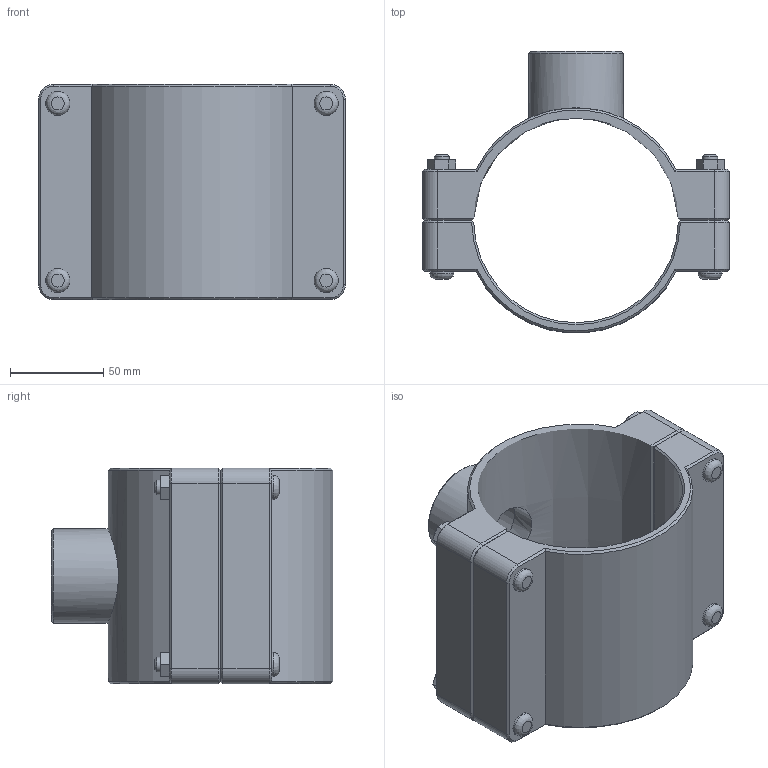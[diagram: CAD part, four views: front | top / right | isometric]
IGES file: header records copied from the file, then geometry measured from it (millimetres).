
Global section: file name: 160760110013_160860110013.ipt; native system: Autodesk Inventor 2015; preprocessor: unknown; author: KIM; date: 20170618.093540; units: millimetre
Bounding box: 165 x 151.28 x 116 mm (x, y, z)
Volume: 564451.1 mm3; surface area: 124449.5 mm2
Topology: 1 solids, 1 shells, 141 faces, 328 edges, 205 vertices
Faces by surface type: plane 82, cone 25, cylinder 23, revolution 11
Full cylindrical faces by diameter (mm): 8 x4, 13 x8, 50.638 x1
